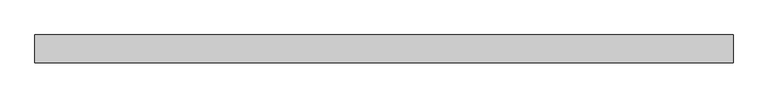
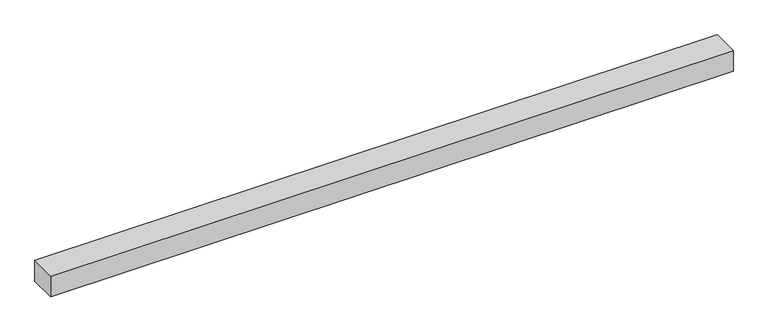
"""IFC4 building model written with IfcOpenShell, lengths in millimetres: geographic element geometry, r 低木密植 : 低木密植."""

from ifc_helpers import new_model, si_unit, origin, origin_with_axes, place, context, project, spatial, polyline, outline, extrude, source, transform, mapped, element, save


def geographic_element_775aa53c(model_context):
    return source(origin(), model_context, "Body", "SweptSolid", [
        extrude(outline(polyline([(0.0, 0.0), (0.0, 500.0), (12528.0443993, 500.0), (12528.0443993, 0.0), (0.0, 0.0)])), origin_with_axes(), (0.0, 0.0, 1.0), 400.0),
    ])


if __name__ == "__main__":
    model = new_model("IFC4")
    model_context = context("Model", 3, world=origin())
    ifc_project = project(units=[si_unit("LENGTHUNIT", "METRE", prefix="MILLI")], contexts=[model_context])
    site = spatial("IfcSite", under=ifc_project)
    building = spatial("IfcBuilding", under=site)
    placement = place(None, origin())
    geographic_element_shape = geographic_element_775aa53c(model_context)
    element("IfcGeographicElement", 1, ObjectType="r 低木密植 : 低木密植", at=placement, inside=building, context=model_context, shape_type="MappedRepresentation", body=[
        mapped(geographic_element_shape, transform((0.0, 0.0, 0.0), x_axis=(1.0, 0.0, 0.0), y_axis=(0.0, 1.0, 0.0), z_axis=(0.0, 0.0, 1.0))),
    ])
    save(model, "model.ifc")
